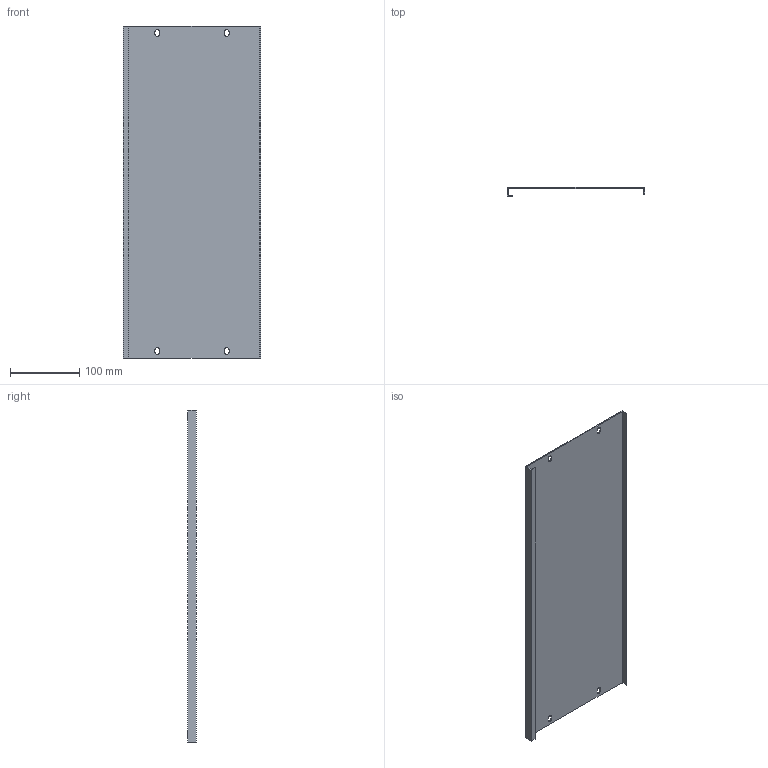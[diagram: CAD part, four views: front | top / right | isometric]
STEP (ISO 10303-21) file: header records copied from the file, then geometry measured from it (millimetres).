
FILE_DESCRIPTION (( 'STEP AP214' ), '1' );
FILE_NAME ('FO-00-PVS-020-060 Ïëàñòðîí ãëóõîé âíóòðåííèé 200õ600.STEP', '2025-08-26T10:26:20', ( '' ), ( '' ), 'SwSTEP 2.0', 'SolidWorks 2023', '' );
FILE_SCHEMA (( 'AUTOMOTIVE_DESIGN' ));
Length unit declared in the file: millimetre
Products named in the file (1): FO-00-PVS-020-060 Пластрон глухой внутренний 200х600
Bounding box: 198 x 12.5 x 479 mm (x, y, z)
Volume: 160587.1 mm3; surface area: 216393.1 mm2
Topology: 1 solids, 1 shells, 42 faces, 120 edges, 80 vertices
Faces by surface type: plane 30, cylinder 12
Entity records: 1407 total; most frequent: CARTESIAN_POINT 243, ORIENTED_EDGE 240, DIRECTION 230, EDGE_CURVE 120, VECTOR 96, LINE 96, VERTEX_POINT 80, AXIS2_PLACEMENT_3D 67
